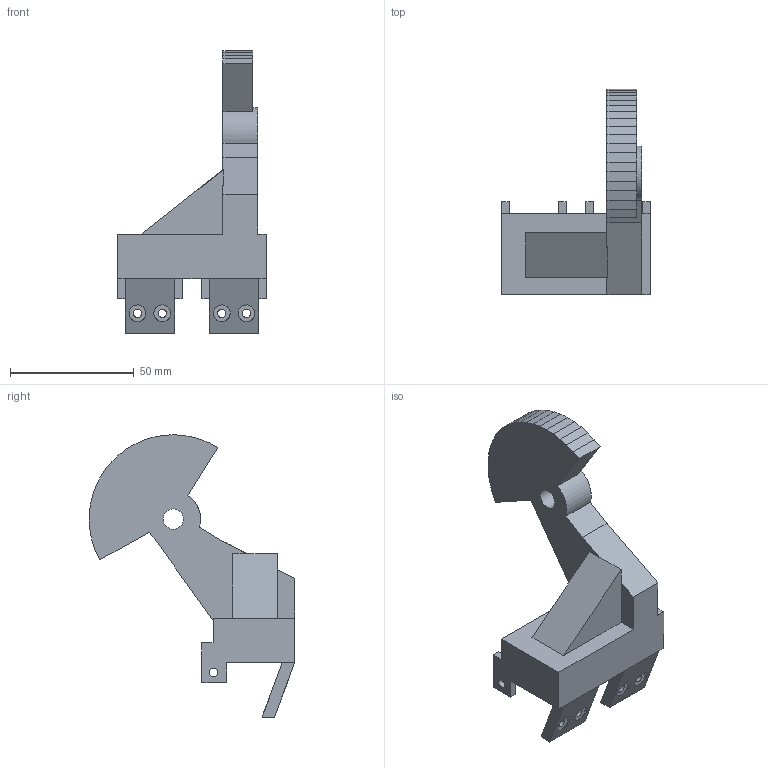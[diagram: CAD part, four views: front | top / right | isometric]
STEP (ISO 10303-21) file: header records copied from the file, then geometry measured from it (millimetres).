
FILE_DESCRIPTION(('Open CASCADE Model'),'2;1');
FILE_NAME('Open CASCADE Shape Model','2026-10-17T22:10:42',('Author'),( 'Open CASCADE'),'Open CASCADE STEP processor 7.9','Open CASCADE 7.9' ,'Unknown');
FILE_SCHEMA(('AUTOMOTIVE_DESIGN { 1 0 10303 214 1 1 1 1 }'));
Length unit declared in the file: millimetre
Products named in the file (1): Open CASCADE STEP translator 7.9 14
Bounding box: 60 x 82.96 x 114 mm (x, y, z)
Volume: 85509.5 mm3; surface area: 21251.9 mm2
Topology: 1 solids, 1 shells, 105 faces, 297 edges, 198 vertices
Faces by surface type: plane 91, cylinder 14
Full cylindrical faces by diameter (mm): 3.4 x8, 8.2 x1
Entity records: 7318 total; most frequent: CARTESIAN_POINT 1565, DIRECTION 983, LINE 685, VECTOR 685, ORIENTED_EDGE 594, PCURVE 594, DEFINITIONAL_REPRESENTATION 594, EDGE_CURVE 297
